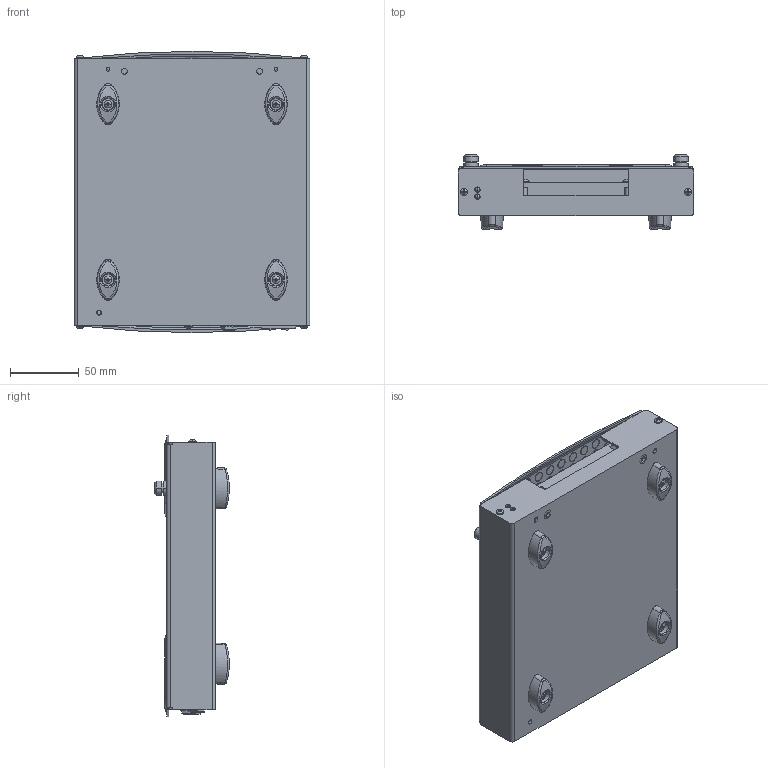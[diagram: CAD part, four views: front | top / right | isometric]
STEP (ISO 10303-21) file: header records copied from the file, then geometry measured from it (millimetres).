
FILE_DESCRIPTION((''),'2;1');
FILE_NAME('CU_USB_RYANBOX','2007-08-24T',('jpearson'),(''),'PRO/ENGINEER BY PARAMETRIC TECHNOLOGY CORPORATION, 2006080','PRO/ENGINEER BY PARAMETRIC TECHNOLOGY CORPORATION, 2006080','');
FILE_SCHEMA(('CONFIG_CONTROL_DESIGN'));
Products named in the file (1): CU_USB_RYANBOX
Bounding box: 170.94 x 54.1 x 204.09 mm (x, y, z)
Volume: 321764.5 mm3; surface area: 267724.4 mm2
Topology: 5 solids, 7 shells, 2234 faces, 5464 edges, 3283 vertices
Faces by surface type: cylinder 886, plane 838, bspline 340, torus 58, cone 50, sphere 30, revolution 24, extrusion 8
Entity records: 99041 total; most frequent: CARTESIAN_POINT 48171, ORIENTED_EDGE 10400, DIRECTION 10366, EDGE_CURVE 5200, AXIS2_PLACEMENT_3D 4034, VERTEX_POINT 3530, EDGE_LOOP 2653, VECTOR 2274
